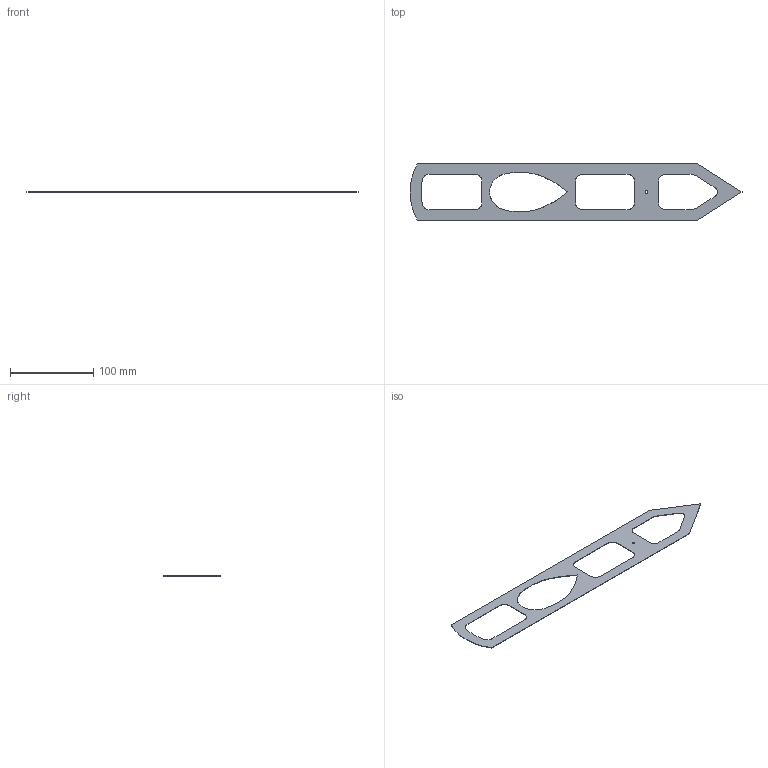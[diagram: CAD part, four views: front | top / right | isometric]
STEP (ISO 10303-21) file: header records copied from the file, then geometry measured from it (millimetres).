
FILE_DESCRIPTION(('STEP AP214'),'1');
FILE_NAME('tmp0.step','2026-06-11T18:33:21',(' '),(' '),'Spatial InterOp 3D',' ',' ');
FILE_SCHEMA(('AUTOMOTIVE_DESIGN { 1 0 10303 214 1 1 1 1 }'));
Length unit declared in the file: millimetre
Products named in the file (1): 1
Bounding box: 400 x 68 x 0.5 mm (x, y, z)
Volume: 6719.2 mm3; surface area: 27742.4 mm2
Topology: 1 solids, 1 shells, 52 faces, 150 edges, 100 vertices
Faces by surface type: cylinder 32, plane 18, bspline 2
Entity records: 2175 total; most frequent: CARTESIAN_POINT 709, DIRECTION 312, ORIENTED_EDGE 300, EDGE_CURVE 150, AXIS2_PLACEMENT_3D 115, VERTEX_POINT 100, LINE 82, VECTOR 82
